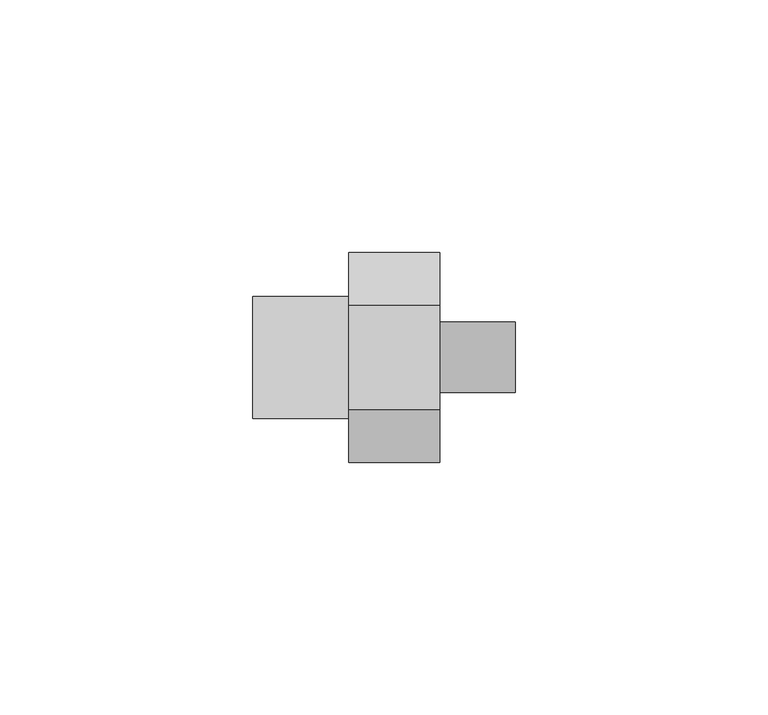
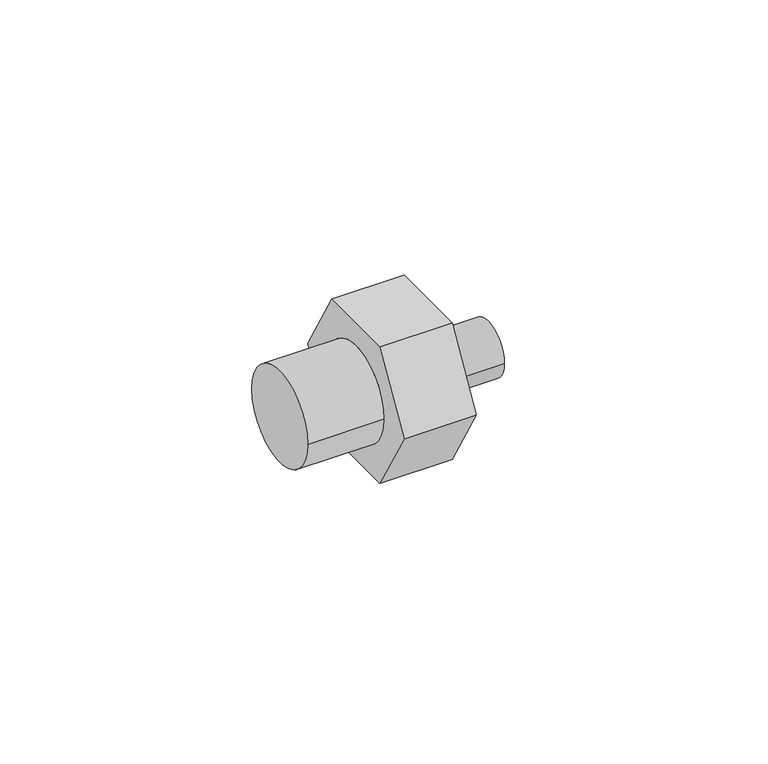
"""IFC4 building model written with IfcOpenShell, lengths in millimetres: pipe fitting geometry, 01011197 : Machones doble rosca reducidas."""

from ifc_helpers import new_model, si_unit, frame, origin, place, context, project, spatial, circle_curve, source, transform, mapped, element, save
from ifc_brep_helpers import plane_surface, cylinder_surface, advanced_brep


def pipe_fitting_70084d2b(model_context):
    return source(origin(), model_context, "Body", "AdvancedBrep", [
        advanced_brep(
        [(37.0, -10.3923048, 18.0), (37.0, -20.7846097, 0.0), (37.0, -10.3923048, -18.0), (37.0, 10.3923048, -18.0), (37.0, 20.7846097, 0.0), (37.0, 10.3923048, 18.0), (37.0, -6.985, 0.0), (37.0, 6.985, 0.0), (19.0, -10.3923048, 18.0), (19.0, 10.3923048, 18.0), (19.0, 20.7846097, 0.0), (19.0, 10.3923048, -18.0), (19.0, -10.3923048, -18.0), (19.0, -20.7846097, 0.0), (19.0, 12.065, 0.0), (19.0, -12.065, 0.0), (52.0, -6.985, 0.0), (52.0, 6.985, 0.0), (0.0, 12.065, 0.0), (0.0, -12.065, 0.0)],
        [
            (0, 1),
            (1, 2),
            (2, 3),
            (3, 4),
            (4, 5),
            (5, 0),
            (6, 7, circle_curve(frame((37.0, 0.0, 0.0), z_axis=(-1.0, 0.0, 0.0), x_axis=(0.0, 1.0, 0.0)), 6.985)),
            (7, 6, circle_curve(frame((37.0, 0.0, 0.0), z_axis=(-1.0, 0.0, 0.0), x_axis=(0.0, 1.0, 0.0)), 6.985)),
            (8, 9),
            (9, 10),
            (10, 11),
            (11, 12),
            (12, 13),
            (13, 8),
            (14, 15, circle_curve(frame((19.0, 0.0, 0.0), z_axis=(1.0, 0.0, 0.0), x_axis=(0.0, -1.0, 0.0)), 12.065)),
            (15, 14, circle_curve(frame((19.0, 0.0, 0.0), z_axis=(1.0, 0.0, 0.0), x_axis=(0.0, -1.0, 0.0)), 12.065)),
            (0, 8),
            (13, 1),
            (12, 2),
            (11, 3),
            (10, 4),
            (9, 5),
            (16, 17, circle_curve(frame((52.0, 0.0, 0.0), z_axis=(1.0, 0.0, 0.0), x_axis=(0.0, 1.0, 0.0)), 6.985)),
            (17, 16, circle_curve(frame((52.0, 0.0, 0.0), z_axis=(1.0, 0.0, 0.0), x_axis=(0.0, 1.0, 0.0)), 6.985)),
            (17, 7),
            (6, 16),
            (18, 19, circle_curve(frame((0.0, 0.0, 0.0), z_axis=(-1.0, 0.0, 0.0), x_axis=(0.0, -1.0, 0.0)), 12.065)),
            (19, 18, circle_curve(frame((0.0, 0.0, 0.0), z_axis=(-1.0, 0.0, 0.0), x_axis=(0.0, -1.0, 0.0)), 12.065)),
            (19, 15),
            (14, 18),
        ],
        [
            plane_surface(frame((37.0, -10.3923048, 18.0), z_axis=(1.0, 0.0, 0.0), x_axis=(0.0, -0.5000000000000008, -0.8660254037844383))),
            plane_surface(frame((19.0, -10.3923048, 18.0), z_axis=(-1.0, 0.0, 0.0), x_axis=(0.0, 0.5000000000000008, 0.8660254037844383))),
            plane_surface(frame((37.0, -10.3923048, 18.0), z_axis=(0.0, -0.8660254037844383, 0.5000000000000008), x_axis=(-1.0, 0.0, 0.0))),
            plane_surface(frame((37.0, -20.7846097, 0.0), z_axis=(0.0, -0.8660254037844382, -0.500000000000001), x_axis=(-1.0, 0.0, 0.0))),
            plane_surface(frame((37.0, -10.3923048, -18.0), z_axis=(0.0, 0.0, -1.0), x_axis=(-1.0, 0.0, 0.0))),
            plane_surface(frame((37.0, 10.3923048, -18.0), z_axis=(0.0, 0.8660254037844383, -0.5000000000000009), x_axis=(-1.0, 0.0, 0.0))),
            plane_surface(frame((37.0, 20.7846097, 0.0), z_axis=(0.0, 0.8660254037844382, 0.500000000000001), x_axis=(-1.0, 0.0, 0.0))),
            plane_surface(frame((37.0, 10.3923048, 18.0), z_axis=(0.0, 0.0, 1.0), x_axis=(-1.0, 0.0, 0.0))),
            plane_surface(frame((52.0, 0.0, 0.0), z_axis=(1.0, 0.0, 0.0), x_axis=(0.0, 0.0, 1.0))),
            cylinder_surface(frame((37.0, 0.0, 0.0), z_axis=(-1.0, 0.0, 0.0), x_axis=(0.0, 1.0, 0.0)), 6.985),
            plane_surface(frame((0.0, 0.0, 0.0), z_axis=(-1.0, 0.0, 0.0), x_axis=(0.0, 0.0, 1.0))),
            cylinder_surface(frame((19.0, 0.0, 0.0), z_axis=(1.0, 0.0, 0.0), x_axis=(0.0, -1.0, 0.0)), 12.065),
        ],
        [
            (0, [[1, 2, 3, 4, 5, 6], [7, 8]]),
            (1, [[9, 10, 11, 12, 13, 14], [15, 16]]),
            (2, [[-1, 17, -14, 18]]),
            (3, [[-2, -18, -13, 19]]),
            (4, [[-3, -19, -12, 20]]),
            (5, [[-4, -20, -11, 21]]),
            (6, [[-5, -21, -10, 22]]),
            (7, [[-6, -22, -9, -17]]),
            (8, [[23, 24]]),
            (9, [[-24, 25, -7, 26]]),
            (9, [[-23, -26, -8, -25]]),
            (10, [[27, 28]]),
            (11, [[-28, 29, -15, 30]]),
            (11, [[-27, -30, -16, -29]]),
        ],
    ),
    ])


if __name__ == "__main__":
    model = new_model("IFC4")
    model_context = context("Model", 3, world=origin())
    ifc_project = project(units=[si_unit("LENGTHUNIT", "METRE", prefix="MILLI")], contexts=[model_context])
    site = spatial("IfcSite", under=ifc_project)
    building = spatial("IfcBuilding", under=site)
    placement = place(None, origin())
    pipe_fitting_shape = pipe_fitting_70084d2b(model_context)
    element("IfcPipeFitting", 1, ObjectType="01011197 : Machones doble rosca reducidas", at=placement, inside=building, context=model_context, shape_type="MappedRepresentation", body=[
        mapped(pipe_fitting_shape, transform((0.0, 0.0, 0.0), x_axis=(1.0, 0.0, 0.0), y_axis=(0.0, 1.0, 0.0), z_axis=(0.0, 0.0, 1.0))),
    ])
    save(model, "model.ifc")
